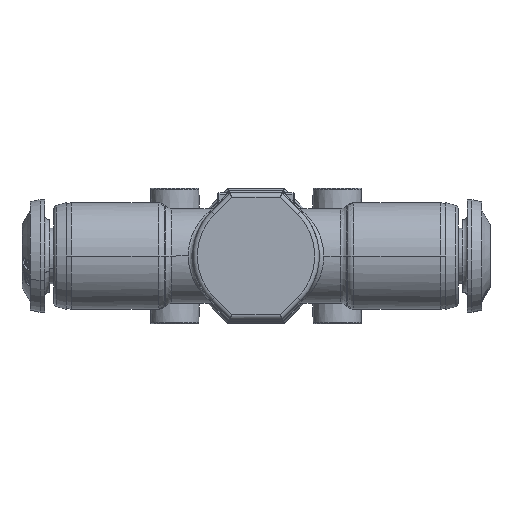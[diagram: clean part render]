
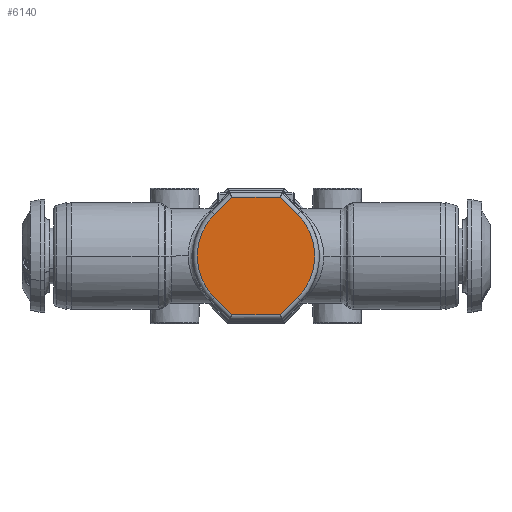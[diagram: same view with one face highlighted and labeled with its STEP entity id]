
A CAD part, front view. The second image highlights one B-rep face of the part: STEP entity #6140.
In plain terms, the highlighted planar face has unit normal (0, -1, 0).
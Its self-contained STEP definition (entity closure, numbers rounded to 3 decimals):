
#777 = CARTESIAN_POINT ( 'NONE',  ( 0., -0.036, 0. ) ) ;
#929 = CARTESIAN_POINT ( 'NONE',  ( -4.596, -0.036, -4.596 ) ) ;
#1338 = VERTEX_POINT ( 'NONE', #2806 ) ;
#1729 = VERTEX_POINT ( 'NONE', #35192 ) ;
#1751 = VERTEX_POINT ( 'NONE', #4696 ) ;
#2577 = LINE ( 'NONE', #20315, #24720 ) ;
#2797 = CARTESIAN_POINT ( 'NONE',  ( -4.596, -0.036, 4.596 ) ) ;
#2806 = CARTESIAN_POINT ( 'NONE',  ( 2.692, -0.036, 6.5 ) ) ;
#3065 = VECTOR ( 'NONE', #20949, 1000. ) ;
#3570 = DIRECTION ( 'NONE',  ( 0., 0., 1. ) ) ;
#3972 = CIRCLE ( 'NONE', #23605, 6.5 ) ;
#4353 = EDGE_CURVE ( 'NONE', #1338, #17314, #17417, .T. ) ;
#4696 = CARTESIAN_POINT ( 'NONE',  ( 2.692, -0.036, -6.5 ) ) ;
#5584 = EDGE_LOOP ( 'NONE', ( #16413, #33173, #25637, #28240, #6093, #8228, #23912, #17408 ) ) ;
#5719 = CARTESIAN_POINT ( 'NONE',  ( 0., -0.036, 0. ) ) ;
#5720 = DIRECTION ( 'NONE',  ( 1., 0., 0. ) ) ;
#6093 = ORIENTED_EDGE ( 'NONE', *, *, #18725, .T. ) ;
#6140 = ADVANCED_FACE ( 'NONE', ( #9492 ), #27820, .F. ) ;
#6587 = VERTEX_POINT ( 'NONE', #12857 ) ;
#6689 = DIRECTION ( 'NONE',  ( -0.707, 0., 0.707 ) ) ;
#8228 = ORIENTED_EDGE ( 'NONE', *, *, #22987, .T. ) ;
#8502 = DIRECTION ( 'NONE',  ( 0., 0., 1. ) ) ;
#8992 = VECTOR ( 'NONE', #6689, 1000. ) ;
#9033 = CARTESIAN_POINT ( 'NONE',  ( -2.546, -0.036, -6.646 ) ) ;
#9492 = FACE_OUTER_BOUND ( 'NONE', #5584, .T. ) ;
#10153 = VERTEX_POINT ( 'NONE', #929 ) ;
#10246 = EDGE_CURVE ( 'NONE', #1729, #1338, #31182, .T. ) ;
#11915 = DIRECTION ( 'NONE',  ( 0.707, 0., 0.707 ) ) ;
#12857 = CARTESIAN_POINT ( 'NONE',  ( -2.692, -0.036, -6.5 ) ) ;
#13783 = CARTESIAN_POINT ( 'NONE',  ( 0., -0.036, 0. ) ) ;
#15990 = AXIS2_PLACEMENT_3D ( 'NONE', #13783, #33281, #16605 ) ;
#16413 = ORIENTED_EDGE ( 'NONE', *, *, #10246, .T. ) ;
#16595 = AXIS2_PLACEMENT_3D ( 'NONE', #5719, #25175, #8502 ) ;
#16605 = DIRECTION ( 'NONE',  ( 0., 0., 1. ) ) ;
#17314 = VERTEX_POINT ( 'NONE', #32306 ) ;
#17408 = ORIENTED_EDGE ( 'NONE', *, *, #29047, .T. ) ;
#17417 = LINE ( 'NONE', #19041, #23943 ) ;
#17773 = LINE ( 'NONE', #9033, #3065 ) ;
#17838 = VERTEX_POINT ( 'NONE', #33945 ) ;
#18099 = CIRCLE ( 'NONE', #15990, 6.5 ) ;
#18725 = EDGE_CURVE ( 'NONE', #10153, #6587, #17773, .T. ) ;
#19041 = CARTESIAN_POINT ( 'NONE',  ( -2.899, -0.036, 6.5 ) ) ;
#19093 = EDGE_CURVE ( 'NONE', #1751, #17838, #2577, .T. ) ;
#19587 = EDGE_CURVE ( 'NONE', #23870, #10153, #18099, .T. ) ;
#20176 = DIRECTION ( 'NONE',  ( 0., -1., 0. ) ) ;
#20315 = CARTESIAN_POINT ( 'NONE',  ( 4.596, -0.036, -4.596 ) ) ;
#20949 = DIRECTION ( 'NONE',  ( 0.707, 0., -0.707 ) ) ;
#22199 = LINE ( 'NONE', #2797, #28682 ) ;
#22394 = CARTESIAN_POINT ( 'NONE',  ( 2.899, -0.036, -6.5 ) ) ;
#22987 = EDGE_CURVE ( 'NONE', #6587, #1751, #31523, .T. ) ;
#23605 = AXIS2_PLACEMENT_3D ( 'NONE', #777, #20176, #3570 ) ;
#23870 = VERTEX_POINT ( 'NONE', #35539 ) ;
#23912 = ORIENTED_EDGE ( 'NONE', *, *, #19093, .T. ) ;
#23943 = VECTOR ( 'NONE', #30603, 1000. ) ;
#24154 = VECTOR ( 'NONE', #5720, 1000. ) ;
#24720 = VECTOR ( 'NONE', #11915, 1000. ) ;
#24782 = EDGE_CURVE ( 'NONE', #17314, #23870, #22199, .T. ) ;
#25175 = DIRECTION ( 'NONE',  ( 0., 1., 0. ) ) ;
#25637 = ORIENTED_EDGE ( 'NONE', *, *, #24782, .T. ) ;
#26138 = CARTESIAN_POINT ( 'NONE',  ( 2.546, -0.036, 6.646 ) ) ;
#27820 = PLANE ( 'NONE',  #16595 ) ;
#27878 = DIRECTION ( 'NONE',  ( -0.707, 0., -0.707 ) ) ;
#28240 = ORIENTED_EDGE ( 'NONE', *, *, #19587, .T. ) ;
#28682 = VECTOR ( 'NONE', #27878, 1000. ) ;
#29047 = EDGE_CURVE ( 'NONE', #17838, #1729, #3972, .T. ) ;
#30603 = DIRECTION ( 'NONE',  ( -1., 0., 0. ) ) ;
#31182 = LINE ( 'NONE', #26138, #8992 ) ;
#31523 = LINE ( 'NONE', #22394, #24154 ) ;
#32306 = CARTESIAN_POINT ( 'NONE',  ( -2.692, -0.036, 6.5 ) ) ;
#33173 = ORIENTED_EDGE ( 'NONE', *, *, #4353, .T. ) ;
#33281 = DIRECTION ( 'NONE',  ( 0., -1., 0. ) ) ;
#33945 = CARTESIAN_POINT ( 'NONE',  ( 4.596, -0.036, -4.596 ) ) ;
#35192 = CARTESIAN_POINT ( 'NONE',  ( 4.596, -0.036, 4.596 ) ) ;
#35539 = CARTESIAN_POINT ( 'NONE',  ( -4.596, -0.036, 4.596 ) ) ;
